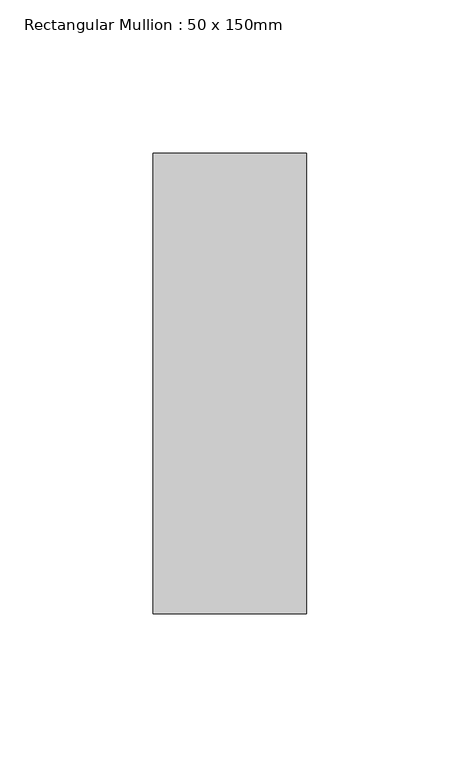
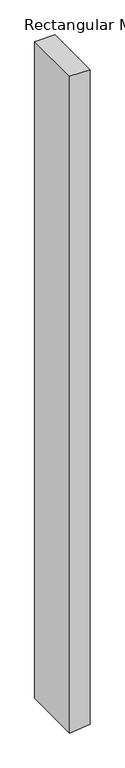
"""IFC4 building model written with IfcOpenShell, lengths in millimetres: member geometry, Rectangular Mullion : 50 x 150mm."""

from ifc_helpers import new_model, si_unit, frame, origin, place, context, project, spatial, polyline, outline, extrude, source, transform, mapped, element, save


def rectangular_mullion_50_x_150mm_88639a5d(model_context):
    return source(origin(), model_context, "Body", "SweptSolid", [
        extrude(outline(polyline([(0.0, 25.0), (0.0, -25.0), (-1718.4918627, -25.0), (-1716.4810955, -5.0022633), (-1713.4643759, 25.0), (0.0, 25.0)])), frame((0.0, -75.0, 0.0), z_axis=(0.0, 1.0, 0.0), x_axis=(0.0, 0.0, 1.0)), (0.0, 0.0, 1.0), 150.0),
    ])


if __name__ == "__main__":
    model = new_model("IFC4")
    model_context = context("Model", 3, world=origin())
    ifc_project = project(units=[si_unit("LENGTHUNIT", "METRE", prefix="MILLI")], contexts=[model_context])
    site = spatial("IfcSite", under=ifc_project)
    building = spatial("IfcBuilding", under=site)
    placement = place(None, origin())
    rectangular_mullion_50_x_150mm_shape = rectangular_mullion_50_x_150mm_88639a5d(model_context)
    element("IfcMember", 1, ObjectType="Rectangular Mullion : 50 x 150mm", at=placement, inside=building, context=model_context, shape_type="MappedRepresentation", body=[
        mapped(rectangular_mullion_50_x_150mm_shape, transform((0.0, 0.0, 0.0), x_axis=(1.0, 0.0, 0.0), y_axis=(0.0, 1.0, 0.0), z_axis=(0.0, 0.0, 1.0))),
    ])
    save(model, "model.ifc")
